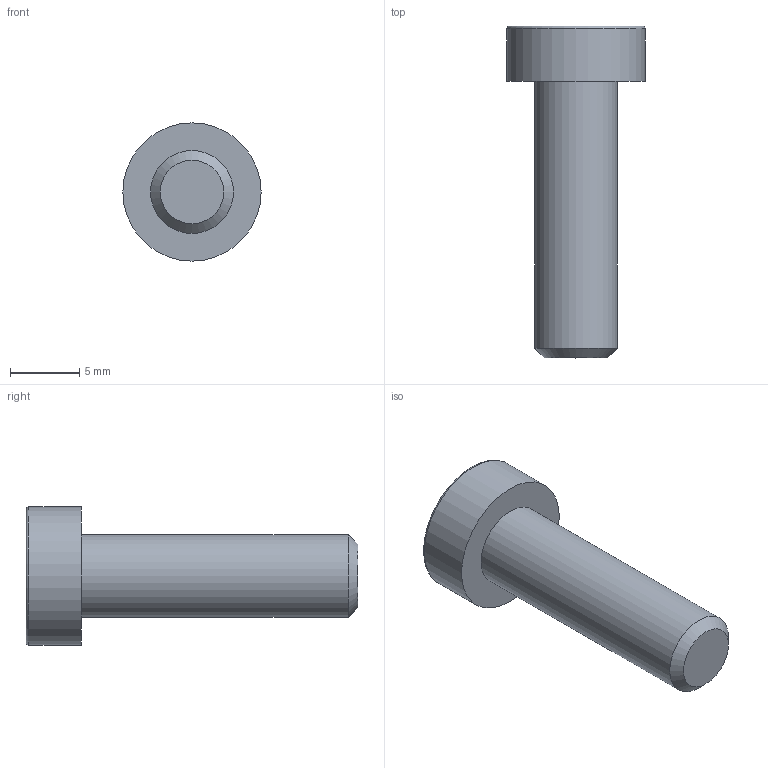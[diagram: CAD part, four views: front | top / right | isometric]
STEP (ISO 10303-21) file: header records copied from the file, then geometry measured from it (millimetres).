
FILE_DESCRIPTION (( 'STEP AP214' ), '1' );
FILE_NAME ('F10538 Vis CHC M6x20.step', '2024-12-03T16:14:40', ( '' ), ( '' ), 'SwSTEP 2.0', 'SolidWorks 2023', '' );
FILE_SCHEMA (( 'AUTOMOTIVE_DESIGN' ));
Length unit declared in the file: millimetre
Products named in the file (1): F10538 Vis CHC M6x20
Bounding box: 10 x 24 x 10 mm (x, y, z)
Volume: 813.6 mm3; surface area: 697.8 mm2
Topology: 1 solids, 1 shells, 14 faces, 28 edges, 18 vertices
Faces by surface type: plane 10, cylinder 2, torus 1, cone 1
Full cylindrical faces by diameter (mm): 6 x1, 10 x1
Entity records: 365 total; most frequent: DIRECTION 60, CARTESIAN_POINT 57, ORIENTED_EDGE 48, EDGE_CURVE 24, AXIS2_PLACEMENT_3D 21, EDGE_LOOP 20, VECTOR 18, LINE 18
